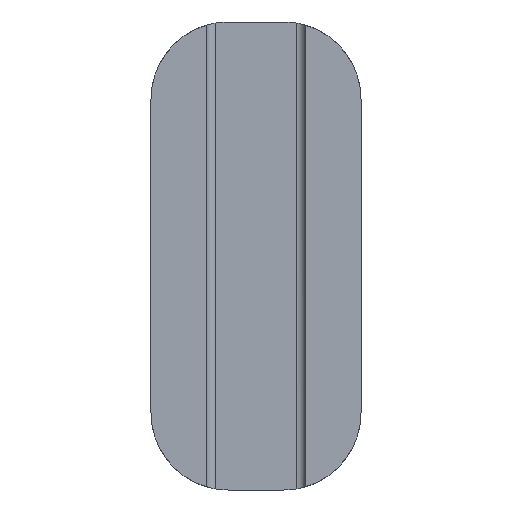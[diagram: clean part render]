
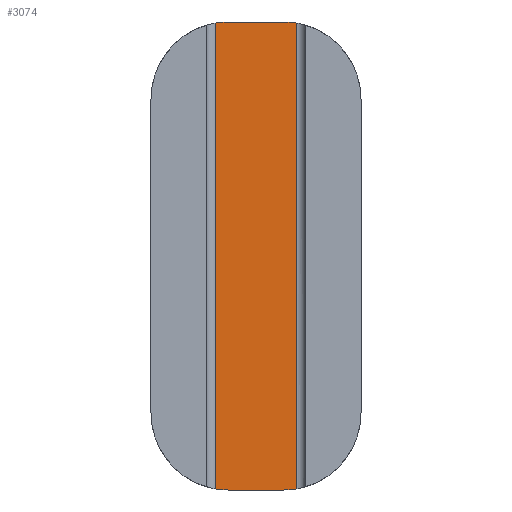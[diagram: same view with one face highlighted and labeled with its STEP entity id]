
A CAD part, front view. The second image highlights one B-rep face of the part: STEP entity #3074.
In plain terms, the highlighted planar face has unit normal (0, -1, 0).
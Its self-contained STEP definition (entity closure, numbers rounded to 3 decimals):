
#202=PLANE('',#3385);
#385=FACE_OUTER_BOUND('',#575,.T.);
#575=EDGE_LOOP('',(#2497,#2498,#2499,#2500,#2501,#2502,#2503,#2504));
#789=LINE('',#6374,#998);
#798=LINE('',#6422,#1007);
#799=LINE('',#6426,#1008);
#800=LINE('',#6431,#1009);
#998=VECTOR('',#4053,10.);
#1007=VECTOR('',#4076,10.);
#1008=VECTOR('',#4079,10.);
#1009=VECTOR('',#4084,10.);
#1182=CIRCLE('',#3386,42.);
#1183=CIRCLE('',#3387,42.);
#1184=CIRCLE('',#3388,42.);
#1185=CIRCLE('',#3389,42.);
#1442=VERTEX_POINT('',#6372);
#1443=VERTEX_POINT('',#6373);
#1454=VERTEX_POINT('',#6420);
#1455=VERTEX_POINT('',#6421);
#1456=VERTEX_POINT('',#6423);
#1457=VERTEX_POINT('',#6425);
#1458=VERTEX_POINT('',#6428);
#1459=VERTEX_POINT('',#6430);
#1822=EDGE_CURVE('',#1442,#1443,#789,.T.);
#1837=EDGE_CURVE('',#1454,#1455,#798,.T.);
#1838=EDGE_CURVE('',#1456,#1454,#1182,.T.);
#1839=EDGE_CURVE('',#1457,#1456,#799,.T.);
#1840=EDGE_CURVE('',#1443,#1457,#1183,.T.);
#1841=EDGE_CURVE('',#1458,#1442,#1184,.T.);
#1842=EDGE_CURVE('',#1459,#1458,#800,.T.);
#1843=EDGE_CURVE('',#1455,#1459,#1185,.T.);
#2497=ORIENTED_EDGE('',*,*,#1837,.F.);
#2498=ORIENTED_EDGE('',*,*,#1838,.F.);
#2499=ORIENTED_EDGE('',*,*,#1839,.F.);
#2500=ORIENTED_EDGE('',*,*,#1840,.F.);
#2501=ORIENTED_EDGE('',*,*,#1822,.F.);
#2502=ORIENTED_EDGE('',*,*,#1841,.F.);
#2503=ORIENTED_EDGE('',*,*,#1842,.F.);
#2504=ORIENTED_EDGE('',*,*,#1843,.F.);
#3074=ADVANCED_FACE('',(#385),#202,.F.);
#3385=AXIS2_PLACEMENT_3D('',#6419,#4074,#4075);
#3386=AXIS2_PLACEMENT_3D('',#6424,#4077,#4078);
#3387=AXIS2_PLACEMENT_3D('',#6427,#4080,#4081);
#3388=AXIS2_PLACEMENT_3D('',#6429,#4082,#4083);
#3389=AXIS2_PLACEMENT_3D('',#6432,#4085,#4086);
#4053=DIRECTION('',(0.,0.,1.));
#4074=DIRECTION('center_axis',(0.,1.,0.));
#4075=DIRECTION('ref_axis',(1.,0.,0.));
#4076=DIRECTION('',(0.,0.,-1.));
#4077=DIRECTION('center_axis',(0.,1.,0.));
#4078=DIRECTION('ref_axis',(0.,0.,1.));
#4079=DIRECTION('',(1.,0.,0.));
#4080=DIRECTION('center_axis',(0.,1.,0.));
#4081=DIRECTION('ref_axis',(-1.,0.,0.));
#4082=DIRECTION('center_axis',(0.,1.,0.));
#4083=DIRECTION('ref_axis',(0.,0.,-1.));
#4084=DIRECTION('',(-1.,0.,0.));
#4085=DIRECTION('center_axis',(0.,1.,0.));
#4086=DIRECTION('ref_axis',(1.,0.,0.));
#6372=CARTESIAN_POINT('',(-22.,5.,-126.413));
#6373=CARTESIAN_POINT('',(-22.,5.,126.413));
#6374=CARTESIAN_POINT('',(-22.,5.,127.));
#6419=CARTESIAN_POINT('Origin',(-27.,5.,127.));
#6420=CARTESIAN_POINT('',(22.,5.,126.413));
#6421=CARTESIAN_POINT('',(22.,5.,-126.413));
#6422=CARTESIAN_POINT('',(22.,5.,127.));
#6423=CARTESIAN_POINT('',(15.,5.,127.));
#6424=CARTESIAN_POINT('Origin',(15.,5.,85.));
#6425=CARTESIAN_POINT('',(-15.,5.,127.));
#6426=CARTESIAN_POINT('',(-21.,5.,127.));
#6427=CARTESIAN_POINT('Origin',(-15.,5.,85.));
#6428=CARTESIAN_POINT('',(-15.,5.,-127.));
#6429=CARTESIAN_POINT('Origin',(-15.,5.,-85.));
#6430=CARTESIAN_POINT('',(15.,5.,-127.));
#6431=CARTESIAN_POINT('',(-6.,5.,-127.));
#6432=CARTESIAN_POINT('Origin',(15.,5.,-85.));
